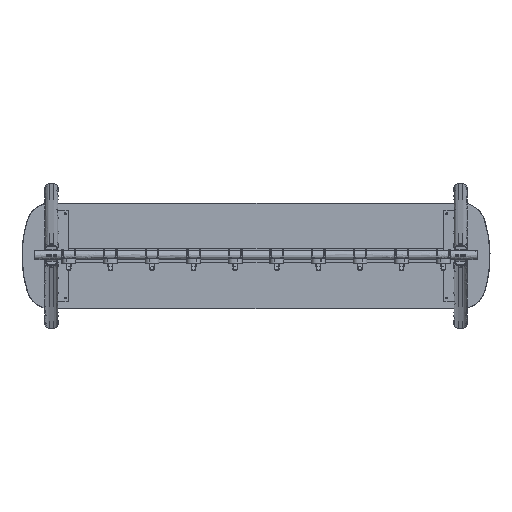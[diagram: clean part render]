
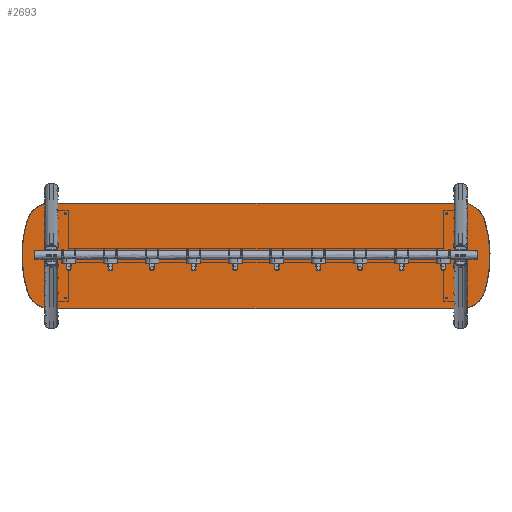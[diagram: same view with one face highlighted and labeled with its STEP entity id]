
A CAD part, top view. The second image highlights one B-rep face of the part: STEP entity #2693.
In plain terms, the highlighted planar face has unit normal (0, 0, 1).
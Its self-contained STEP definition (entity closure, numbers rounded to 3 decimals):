
#2693=ADVANCED_FACE('',(#4697),#29031,.T.);
#4697=FACE_OUTER_BOUND('',#6855,.T.);
#6855=EDGE_LOOP('',(#15826,#15827,#15828,#15829));
#15826=ORIENTED_EDGE('',*,*,#20827,.F.);
#15827=ORIENTED_EDGE('',*,*,#20805,.F.);
#15828=ORIENTED_EDGE('',*,*,#20813,.F.);
#15829=ORIENTED_EDGE('',*,*,#20818,.F.);
#20805=EDGE_CURVE('',#28462,#28460,#25799,.T.);
#20813=EDGE_CURVE('',#28466,#28462,#24651,.T.);
#20818=EDGE_CURVE('',#28470,#28466,#25803,.T.);
#20827=EDGE_CURVE('',#28460,#28470,#24658,.T.);
#24651=(
BOUNDED_CURVE()
B_SPLINE_CURVE(3,(#78143,#78144,#78145,#78146,#78147,#78148,#78149,#78150,
#78151,#78152,#78153,#78154,#78155,#78156,#78157,#78158,#78159,#78160,#78161,
#78162,#78163,#78164,#78165),.UNSPECIFIED.,.F.,.F.)
B_SPLINE_CURVE_WITH_KNOTS((4,1,1,1,1,1,3,1,1,1,3,1,1,1,1,1,4),(0.,
21.523,32.858,44.192,55.526,66.861,
88.384,140.354,192.913,245.471,297.442,
318.965,330.299,341.634,352.968,364.302,
385.826),.UNSPECIFIED.)
CURVE()
GEOMETRIC_REPRESENTATION_ITEM()
RATIONAL_B_SPLINE_CURVE((1.,1.,1.,1.,1.,1.,
1.,1.,1.,1.,1.,1.,1.,1.,1.,1.,1.,1.,1.,
1.,1.,1.,1.))
REPRESENTATION_ITEM('')
);
#24658=(
BOUNDED_CURVE()
B_SPLINE_CURVE(3,(#78225,#78226,#78227,#78228,#78229,#78230,#78231,#78232,
#78233,#78234,#78235,#78236,#78237,#78238,#78239,#78240,#78241,#78242,#78243,
#78244,#78245,#78246,#78247),.UNSPECIFIED.,.F.,.F.)
B_SPLINE_CURVE_WITH_KNOTS((4,1,1,1,1,1,3,1,1,1,3,1,1,1,1,1,4),(-385.826,
-364.302,-352.968,-341.634,-330.299,
-318.965,-297.442,-245.471,-192.913,
-140.354,-88.384,-66.861,-55.526,
-44.192,-32.858,-21.523,0.),
 .UNSPECIFIED.)
CURVE()
GEOMETRIC_REPRESENTATION_ITEM()
RATIONAL_B_SPLINE_CURVE((1.,1.,1.,1.,1.,1.,1.,1.,1.,1.,1.,
1.,1.,1.,1.,1.,1.,1.,1.,1.,
1.,1.,1.))
REPRESENTATION_ITEM('')
);
#25799=B_SPLINE_CURVE_WITH_KNOTS('',1,(#78093,#78094),.UNSPECIFIED.,.F.,
 .F.,(2,2),(0.,1185.14),.UNSPECIFIED.);
#25803=B_SPLINE_CURVE_WITH_KNOTS('',1,(#78176,#78177),.UNSPECIFIED.,.F.,
 .F.,(2,2),(0.,1185.14),.UNSPECIFIED.);
#28460=VERTEX_POINT('',#78068);
#28462=VERTEX_POINT('',#78070);
#28466=VERTEX_POINT('',#78074);
#28470=VERTEX_POINT('',#78078);
#29031=PLANE('',#31031);
#31031=AXIS2_PLACEMENT_3D('',#77910,#31404,$);
#31404=DIRECTION('',(0.,0.,1.));
#77910=CARTESIAN_POINT('',(-65.084,155.55,200.));
#78068=CARTESIAN_POINT('',(1232.57,152.,200.));
#78070=CARTESIAN_POINT('',(47.43,152.,200.));
#78074=CARTESIAN_POINT('',(47.43,-152.,200.));
#78078=CARTESIAN_POINT('',(1232.57,-152.,200.));
#78093=CARTESIAN_POINT('',(47.43,152.,200.));
#78094=CARTESIAN_POINT('',(1232.57,152.,200.));
#78143=CARTESIAN_POINT('',(47.43,-152.,200.));
#78144=CARTESIAN_POINT('',(40.255,-152.003,200.));
#78145=CARTESIAN_POINT('',(29.305,-150.289,200.));
#78146=CARTESIAN_POINT('',(15.642,-144.651,200.));
#78147=CARTESIAN_POINT('',(5.972,-138.666,200.));
#78148=CARTESIAN_POINT('',(-2.596,-131.189,200.));
#78149=CARTESIAN_POINT('',(-12.009,-119.794,200.));
#78150=CARTESIAN_POINT('',(-16.874,-109.835,200.));
#78151=CARTESIAN_POINT('',(-18.985,-102.978,200.));
#78152=CARTESIAN_POINT('',(-24.09,-86.423,200.));
#78153=CARTESIAN_POINT('',(-31.875,-52.362,200.));
#78154=CARTESIAN_POINT('',(-35.82,0.,200.));
#78155=CARTESIAN_POINT('',(-31.875,52.362,200.));
#78156=CARTESIAN_POINT('',(-24.09,86.423,200.));
#78157=CARTESIAN_POINT('',(-18.985,102.978,200.));
#78158=CARTESIAN_POINT('',(-16.874,109.835,200.));
#78159=CARTESIAN_POINT('',(-12.009,119.794,200.));
#78160=CARTESIAN_POINT('',(-2.596,131.189,200.));
#78161=CARTESIAN_POINT('',(5.972,138.666,200.));
#78162=CARTESIAN_POINT('',(15.642,144.651,200.));
#78163=CARTESIAN_POINT('',(29.305,150.289,200.));
#78164=CARTESIAN_POINT('',(40.255,152.003,200.));
#78165=CARTESIAN_POINT('',(47.43,152.,200.));
#78176=CARTESIAN_POINT('',(1232.57,-152.,200.));
#78177=CARTESIAN_POINT('',(47.43,-152.,200.));
#78225=CARTESIAN_POINT('',(1232.57,152.,200.));
#78226=CARTESIAN_POINT('',(1239.745,152.003,200.));
#78227=CARTESIAN_POINT('',(1250.695,150.289,200.));
#78228=CARTESIAN_POINT('',(1264.358,144.651,200.));
#78229=CARTESIAN_POINT('',(1274.028,138.666,200.));
#78230=CARTESIAN_POINT('',(1282.596,131.189,200.));
#78231=CARTESIAN_POINT('',(1292.009,119.794,200.));
#78232=CARTESIAN_POINT('',(1296.874,109.835,200.));
#78233=CARTESIAN_POINT('',(1298.985,102.978,200.));
#78234=CARTESIAN_POINT('',(1304.09,86.423,200.));
#78235=CARTESIAN_POINT('',(1311.875,52.362,200.));
#78236=CARTESIAN_POINT('',(1315.82,0.,200.));
#78237=CARTESIAN_POINT('',(1311.875,-52.362,200.));
#78238=CARTESIAN_POINT('',(1304.09,-86.423,200.));
#78239=CARTESIAN_POINT('',(1298.985,-102.978,200.));
#78240=CARTESIAN_POINT('',(1296.874,-109.835,200.));
#78241=CARTESIAN_POINT('',(1292.009,-119.794,200.));
#78242=CARTESIAN_POINT('',(1282.596,-131.189,200.));
#78243=CARTESIAN_POINT('',(1274.028,-138.666,200.));
#78244=CARTESIAN_POINT('',(1264.358,-144.651,200.));
#78245=CARTESIAN_POINT('',(1250.695,-150.289,200.));
#78246=CARTESIAN_POINT('',(1239.745,-152.003,200.));
#78247=CARTESIAN_POINT('',(1232.57,-152.,200.));
